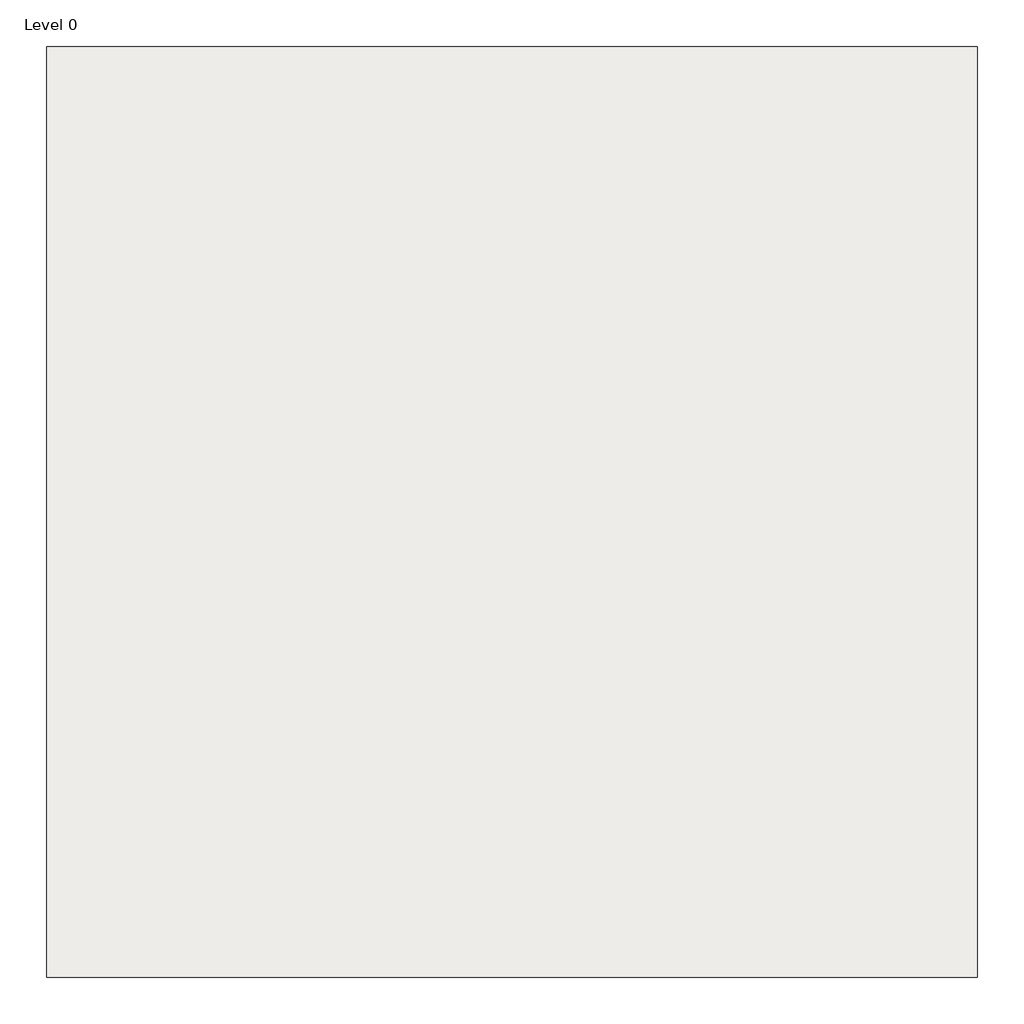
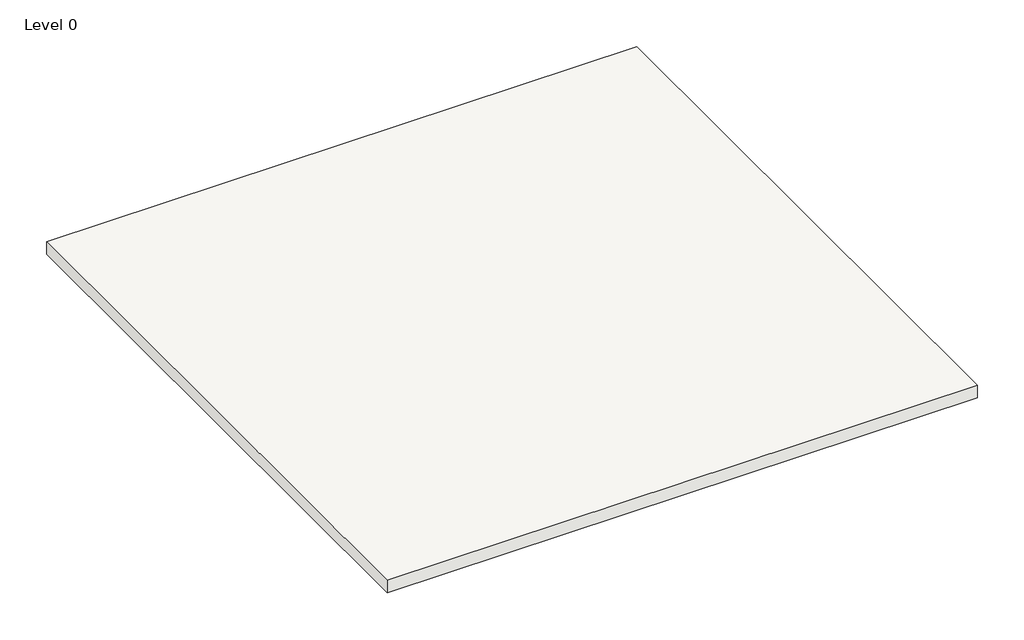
# One storey: 1 roof.
"""IFC4 building model written with IfcOpenShell, lengths in millimetres."""

from ifc_helpers import new_model, si_unit, origin, origin_with_axes, place, context, project, spatial, polyline, outline, extrude, element, save

model = new_model("IFC4")

# Units and contexts
model_context = context("Model", 3, world=origin())
ifc_project = project(units=[si_unit("LENGTHUNIT", "METRE", prefix="MILLI")], contexts=[model_context])

# Site, building, storey
site = spatial("IfcSite", under=ifc_project)
building = spatial("IfcBuilding", under=site)
storey = spatial("IfcBuildingStorey", under=building, Name="Level 0", Elevation=0.0)

# Roof
placement = place(None, origin())
element("IfcRoof", 1, ObjectType="NBS_IKOUK_Liquid-appliedInvertedRoofCoveringSystems_-IKOPermatecLIStandardInvertedHotMeltRoofingAndWaterproofingSystem", at=placement, inside=storey, context=model_context, shape_type="SweptSolid", body=[
    extrude(outline(polyline([(1524.0, -6024.0), (1524.0, -3524.0), (4024.0, -3524.0), (4024.0, -6024.0), (1524.0, -6024.0)])), origin_with_axes(), (0.0, 0.0, 1.0), 56.0),
])

save(model, "model.ifc")
